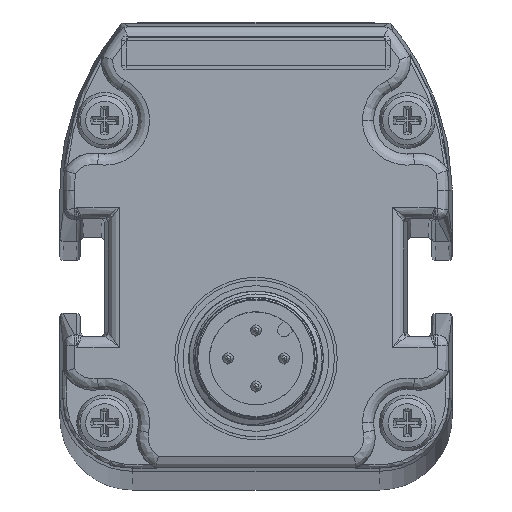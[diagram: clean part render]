
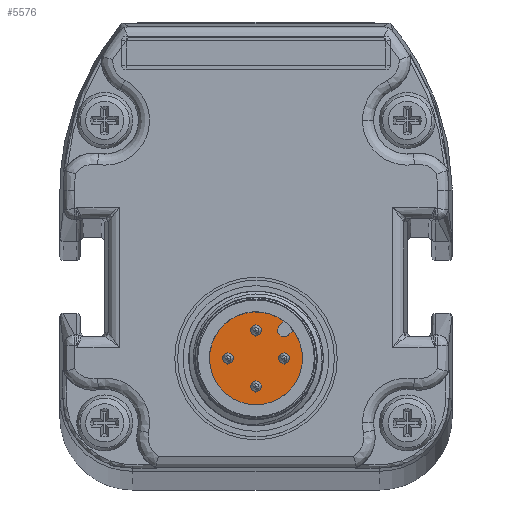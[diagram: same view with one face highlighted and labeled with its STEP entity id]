
A CAD part, top view. The second image highlights one B-rep face of the part: STEP entity #5576.
In plain terms, the highlighted planar face has unit normal (0, 0, 1).
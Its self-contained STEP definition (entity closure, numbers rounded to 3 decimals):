
#3955=FACE_BOUND('',#7325,.T.);
#3956=FACE_BOUND('',#7326,.T.);
#3957=FACE_BOUND('',#7327,.T.);
#3958=FACE_BOUND('',#7328,.T.);
#3959=FACE_BOUND('',#7329,.T.);
#5576=ADVANCED_FACE('',(#3955,#3956,#3957,#3958,#3959),#6049,.T.);
#6049=PLANE('',#17008);
#7325=EDGE_LOOP('',(#11886));
#7326=EDGE_LOOP('',(#11887));
#7327=EDGE_LOOP('',(#11888));
#7328=EDGE_LOOP('',(#11889));
#7329=EDGE_LOOP('',(#11890,#11891,#11892,#11893));
#7861=CIRCLE('',#16973,0.5);
#7865=CIRCLE('',#16980,0.5);
#7869=CIRCLE('',#16987,0.5);
#7873=CIRCLE('',#16994,0.5);
#7876=CIRCLE('',#17001,0.6);
#7877=CIRCLE('',#17003,4.15);
#8463=LINE('',#27781,#9061);
#8466=LINE('',#27787,#9064);
#9061=VECTOR('',#19244,1.);
#9064=VECTOR('',#19249,1.);
#11886=ORIENTED_EDGE('',*,*,#15683,.T.);
#11887=ORIENTED_EDGE('',*,*,#15687,.T.);
#11888=ORIENTED_EDGE('',*,*,#15679,.T.);
#11889=ORIENTED_EDGE('',*,*,#15675,.T.);
#11890=ORIENTED_EDGE('',*,*,#15698,.T.);
#11891=ORIENTED_EDGE('',*,*,#15695,.T.);
#11892=ORIENTED_EDGE('',*,*,#15699,.F.);
#11893=ORIENTED_EDGE('',*,*,#15692,.T.);
#13974=VERTEX_POINT('',#27653);
#13978=VERTEX_POINT('',#27692);
#13982=VERTEX_POINT('',#27731);
#13986=VERTEX_POINT('',#27770);
#13991=VERTEX_POINT('',#27782);
#13992=VERTEX_POINT('',#27783);
#13993=VERTEX_POINT('',#27788);
#13994=VERTEX_POINT('',#27789);
#15675=EDGE_CURVE('',#13974,#13974,#7861,.T.);
#15679=EDGE_CURVE('',#13978,#13978,#7865,.T.);
#15683=EDGE_CURVE('',#13982,#13982,#7869,.T.);
#15687=EDGE_CURVE('',#13986,#13986,#7873,.T.);
#15692=EDGE_CURVE('',#13991,#13992,#8463,.T.);
#15695=EDGE_CURVE('',#13993,#13994,#8466,.T.);
#15698=EDGE_CURVE('',#13992,#13993,#7876,.T.);
#15699=EDGE_CURVE('',#13991,#13994,#7877,.T.);
#16973=AXIS2_PLACEMENT_3D('',#27652,#19190,#19191);
#16980=AXIS2_PLACEMENT_3D('',#27691,#19204,#19205);
#16987=AXIS2_PLACEMENT_3D('',#27730,#19218,#19219);
#16994=AXIS2_PLACEMENT_3D('',#27769,#19232,#19233);
#17001=AXIS2_PLACEMENT_3D('',#27793,#19254,#19255);
#17003=AXIS2_PLACEMENT_3D('',#27795,#19258,#19259);
#17008=AXIS2_PLACEMENT_3D('',#27802,#19268,#19269);
#19190=DIRECTION('',(0.,0.,-1.));
#19191=DIRECTION('',(1.,0.,0.));
#19204=DIRECTION('',(0.,0.,-1.));
#19205=DIRECTION('',(1.,0.,0.));
#19218=DIRECTION('',(0.,0.,-1.));
#19219=DIRECTION('',(1.,0.,0.));
#19232=DIRECTION('',(0.,0.,-1.));
#19233=DIRECTION('',(1.,0.,0.));
#19244=DIRECTION('',(-0.707,-0.707,0.));
#19249=DIRECTION('',(0.707,0.707,0.));
#19254=DIRECTION('',(0.,0.,-1.));
#19255=DIRECTION('',(1.,0.,0.));
#19258=DIRECTION('',(0.,0.,-1.));
#19259=DIRECTION('',(1.,0.,0.));
#19268=DIRECTION('',(0.,0.,1.));
#19269=DIRECTION('',(-1.,0.,0.));
#27652=CARTESIAN_POINT('',(79.513,7.557,1726.168));
#27653=CARTESIAN_POINT('',(80.013,7.557,1726.168));
#27691=CARTESIAN_POINT('',(84.513,7.557,1726.168));
#27692=CARTESIAN_POINT('',(85.013,7.557,1726.168));
#27730=CARTESIAN_POINT('',(82.013,10.057,1726.168));
#27731=CARTESIAN_POINT('',(82.513,10.057,1726.168));
#27769=CARTESIAN_POINT('',(82.013,5.057,1726.168));
#27770=CARTESIAN_POINT('',(82.513,5.057,1726.168));
#27781=CARTESIAN_POINT('',(85.341,10.036,1726.168));
#27782=CARTESIAN_POINT('',(85.341,10.036,1726.168));
#27783=CARTESIAN_POINT('',(84.947,9.643,1726.168));
#27787=CARTESIAN_POINT('',(84.099,10.492,1726.168));
#27788=CARTESIAN_POINT('',(84.099,10.492,1726.168));
#27789=CARTESIAN_POINT('',(84.492,10.885,1726.168));
#27793=CARTESIAN_POINT('',(84.523,10.067,1726.168));
#27795=CARTESIAN_POINT('',(82.013,7.557,1726.168));
#27802=CARTESIAN_POINT('',(82.013,7.557,1726.168));
